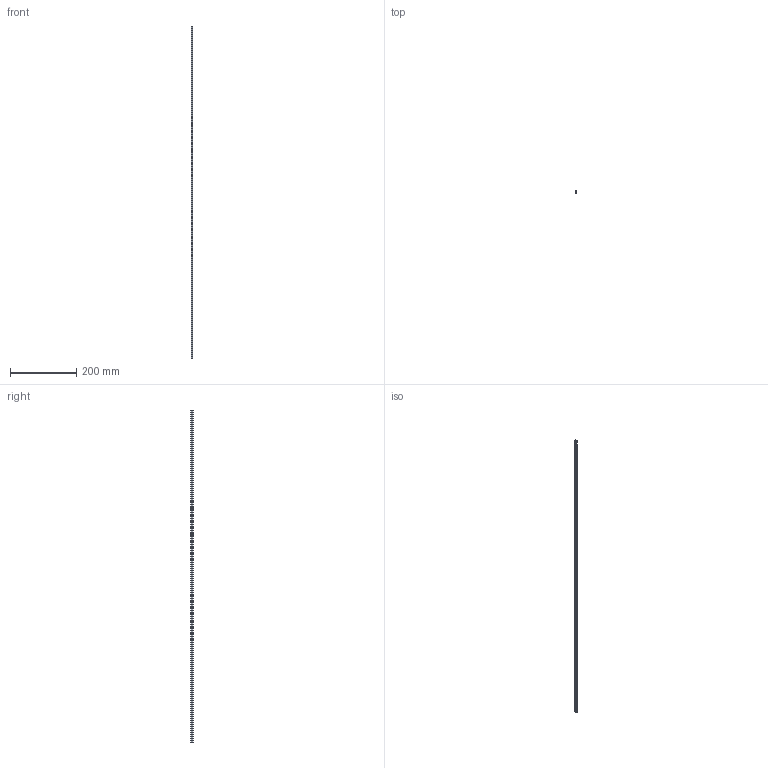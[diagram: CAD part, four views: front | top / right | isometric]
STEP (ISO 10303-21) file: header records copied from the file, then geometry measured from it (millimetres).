
FILE_DESCRIPTION (( 'STEP AP214' ), '1' );
FILE_NAME ('F50810.step', '2024-12-03T16:17:54', ( '' ), ( '' ), 'SwSTEP 2.0', 'SolidWorks 2023', '' );
FILE_SCHEMA (( 'AUTOMOTIVE_DESIGN' ));
Length unit declared in the file: millimetre
Products named in the file (1): F50810
Bounding box: 5.5 x 7.5 x 1000 mm (x, y, z)
Volume: 17152.8 mm3; surface area: 33210.4 mm2
Topology: 1 solids, 1 shells, 85 faces, 249 edges, 166 vertices
Faces by surface type: plane 81, cylinder 4
Entity records: 2794 total; most frequent: CARTESIAN_POINT 501, ORIENTED_EDGE 498, DIRECTION 429, EDGE_CURVE 249, VECTOR 241, LINE 241, VERTEX_POINT 166, AXIS2_PLACEMENT_3D 94
